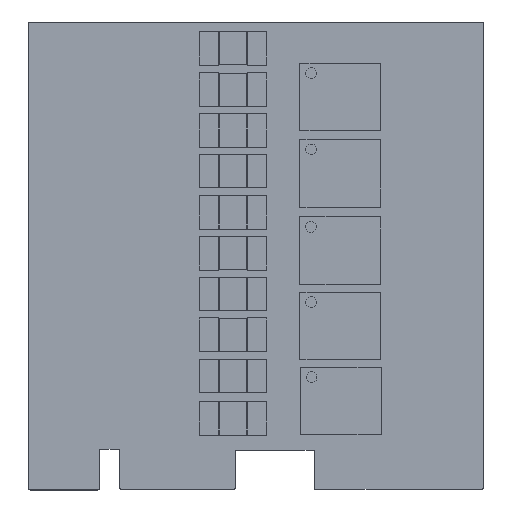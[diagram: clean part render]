
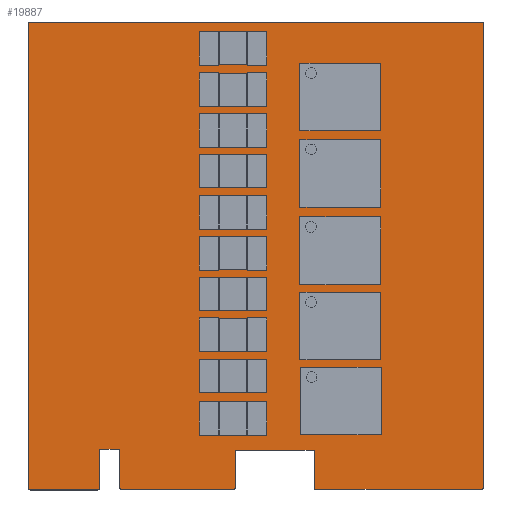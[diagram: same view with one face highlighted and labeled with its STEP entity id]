
A CAD part, top view. The second image highlights one B-rep face of the part: STEP entity #19887.
In plain terms, the highlighted planar face has unit normal (0, 0, 1).
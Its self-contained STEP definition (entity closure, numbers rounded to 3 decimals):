
#19162 = VERTEX_POINT('',#19163);
#19163 = CARTESIAN_POINT('',(0.049,0.,
    0.));
#19169 = EDGE_CURVE('',#19162,#19170,#19172,.T.);
#19170 = VERTEX_POINT('',#19171);
#19171 = CARTESIAN_POINT('',(5.131,0.,0.
    ));
#19172 = LINE('',#19173,#19174);
#19173 = CARTESIAN_POINT('',(0.049,0.,
    0.));
#19174 = VECTOR('',#19175,1.);
#19175 = DIRECTION('',(1.,0.,0.));
#19200 = EDGE_CURVE('',#19170,#19201,#19203,.T.);
#19201 = VERTEX_POINT('',#19202);
#19202 = CARTESIAN_POINT('',(5.256,0.152,0.));
#19203 = CIRCLE('',#19204,0.127);
#19204 = AXIS2_PLACEMENT_3D('',#19205,#19206,#19207);
#19205 = CARTESIAN_POINT('',(5.131,0.127,0.));
#19206 = DIRECTION('',(0.,0.,1.));
#19207 = DIRECTION('',(0.,-1.,0.));
#19233 = EDGE_CURVE('',#19201,#19234,#19236,.T.);
#19234 = VERTEX_POINT('',#19235);
#19235 = CARTESIAN_POINT('',(5.258,0.178,0.));
#19236 = CIRCLE('',#19237,0.127);
#19237 = AXIS2_PLACEMENT_3D('',#19238,#19239,#19240);
#19238 = CARTESIAN_POINT('',(5.131,0.178,0.));
#19239 = DIRECTION('',(0.,0.,1.));
#19240 = DIRECTION('',(0.98,-0.2,0.));
#19266 = EDGE_CURVE('',#19234,#19267,#19269,.T.);
#19267 = VERTEX_POINT('',#19268);
#19268 = CARTESIAN_POINT('',(5.258,3.054,0.));
#19269 = LINE('',#19270,#19271);
#19270 = CARTESIAN_POINT('',(5.258,0.178,0.));
#19271 = VECTOR('',#19272,1.);
#19272 = DIRECTION('',(0.,1.,0.));
#19297 = EDGE_CURVE('',#19267,#19298,#19300,.T.);
#19298 = VERTEX_POINT('',#19299);
#19299 = CARTESIAN_POINT('',(6.764,3.06,0.));
#19300 = LINE('',#19301,#19302);
#19301 = CARTESIAN_POINT('',(5.258,3.054,0.));
#19302 = VECTOR('',#19303,1.);
#19303 = DIRECTION('',(1.,0.004,0.));
#19328 = EDGE_CURVE('',#19298,#19329,#19331,.T.);
#19329 = VERTEX_POINT('',#19330);
#19330 = CARTESIAN_POINT('',(6.764,0.195,0.));
#19331 = LINE('',#19332,#19333);
#19332 = CARTESIAN_POINT('',(6.764,3.06,0.));
#19333 = VECTOR('',#19334,1.);
#19334 = DIRECTION('',(0.,-1.,0.));
#19359 = EDGE_CURVE('',#19329,#19360,#19362,.T.);
#19360 = VERTEX_POINT('',#19361);
#19361 = CARTESIAN_POINT('',(6.891,0.068,0.)
  );
#19362 = CIRCLE('',#19363,0.127);
#19363 = AXIS2_PLACEMENT_3D('',#19364,#19365,#19366);
#19364 = CARTESIAN_POINT('',(6.891,0.195,0.));
#19365 = DIRECTION('',(0.,0.,1.));
#19366 = DIRECTION('',(-1.,0.,0.));
#19392 = EDGE_CURVE('',#19360,#19393,#19395,.T.);
#19393 = VERTEX_POINT('',#19394);
#19394 = CARTESIAN_POINT('',(15.391,0.068,0.
    ));
#19395 = LINE('',#19396,#19397);
#19396 = CARTESIAN_POINT('',(6.891,0.068,0.)
  );
#19397 = VECTOR('',#19398,1.);
#19398 = DIRECTION('',(1.,0.,0.));
#19423 = EDGE_CURVE('',#19393,#19424,#19426,.T.);
#19424 = VERTEX_POINT('',#19425);
#19425 = CARTESIAN_POINT('',(15.519,0.198,0.));
#19426 = CIRCLE('',#19427,0.127);
#19427 = AXIS2_PLACEMENT_3D('',#19428,#19429,#19430);
#19428 = CARTESIAN_POINT('',(15.391,0.195,0.));
#19429 = DIRECTION('',(0.,0.,1.));
#19430 = DIRECTION('',(0.,-1.,0.));
#19456 = EDGE_CURVE('',#19424,#19457,#19459,.T.);
#19457 = VERTEX_POINT('',#19458);
#19458 = CARTESIAN_POINT('',(15.519,0.202,0.));
#19459 = CIRCLE('',#19460,0.131);
#19460 = AXIS2_PLACEMENT_3D('',#19461,#19462,#19463);
#19461 = CARTESIAN_POINT('',(15.388,0.202,0.));
#19462 = DIRECTION('',(0.,0.,1.));
#19463 = DIRECTION('',(1.,-0.025,0.));
#19489 = EDGE_CURVE('',#19457,#19490,#19492,.T.);
#19490 = VERTEX_POINT('',#19491);
#19491 = CARTESIAN_POINT('',(15.519,3.009,0.));
#19492 = LINE('',#19493,#19494);
#19493 = CARTESIAN_POINT('',(15.519,0.202,0.));
#19494 = VECTOR('',#19495,1.);
#19495 = DIRECTION('',(0.,1.,0.));
#19520 = EDGE_CURVE('',#19490,#19521,#19523,.T.);
#19521 = VERTEX_POINT('',#19522);
#19522 = CARTESIAN_POINT('',(21.422,3.009,0.));
#19523 = LINE('',#19524,#19525);
#19524 = CARTESIAN_POINT('',(15.519,3.009,0.));
#19525 = VECTOR('',#19526,1.);
#19526 = DIRECTION('',(1.,0.,0.));
#19551 = EDGE_CURVE('',#19521,#19552,#19554,.T.);
#19552 = VERTEX_POINT('',#19553);
#19553 = CARTESIAN_POINT('',(21.422,0.184,0.));
#19554 = LINE('',#19555,#19556);
#19555 = CARTESIAN_POINT('',(21.422,3.009,0.));
#19556 = VECTOR('',#19557,1.);
#19557 = DIRECTION('',(0.,-1.,0.));
#19582 = EDGE_CURVE('',#19552,#19583,#19585,.T.);
#19583 = VERTEX_POINT('',#19584);
#19584 = CARTESIAN_POINT('',(21.549,0.057,0.)
  );
#19585 = CIRCLE('',#19586,0.127);
#19586 = AXIS2_PLACEMENT_3D('',#19587,#19588,#19589);
#19587 = CARTESIAN_POINT('',(21.549,0.184,0.));
#19588 = DIRECTION('',(0.,0.,1.));
#19589 = DIRECTION('',(-1.,0.,0.));
#19615 = EDGE_CURVE('',#19583,#19616,#19618,.T.);
#19616 = VERTEX_POINT('',#19617);
#19617 = CARTESIAN_POINT('',(34.049,0.05,0.
    ));
#19618 = LINE('',#19619,#19620);
#19619 = CARTESIAN_POINT('',(21.549,0.057,0.)
  );
#19620 = VECTOR('',#19621,1.);
#19621 = DIRECTION('',(1.,-0.001,0.));
#19646 = EDGE_CURVE('',#19616,#19647,#19649,.T.);
#19647 = VERTEX_POINT('',#19648);
#19648 = CARTESIAN_POINT('',(34.177,0.178,0.));
#19649 = CIRCLE('',#19650,0.127);
#19650 = AXIS2_PLACEMENT_3D('',#19651,#19652,#19653);
#19651 = CARTESIAN_POINT('',(34.049,0.178,0.));
#19652 = DIRECTION('',(0.,0.,1.));
#19653 = DIRECTION('',(-0.001,-1.,0.));
#19679 = EDGE_CURVE('',#19647,#19680,#19682,.T.);
#19680 = VERTEX_POINT('',#19681);
#19681 = CARTESIAN_POINT('',(34.177,35.13,0.));
#19682 = LINE('',#19683,#19684);
#19683 = CARTESIAN_POINT('',(34.177,0.178,0.));
#19684 = VECTOR('',#19685,1.);
#19685 = DIRECTION('',(0.,1.,0.));
#19710 = EDGE_CURVE('',#19680,#19711,#19713,.T.);
#19711 = VERTEX_POINT('',#19712);
#19712 = CARTESIAN_POINT('',(34.049,35.257,0.));
#19713 = CIRCLE('',#19714,0.127);
#19714 = AXIS2_PLACEMENT_3D('',#19715,#19716,#19717);
#19715 = CARTESIAN_POINT('',(34.049,35.13,0.));
#19716 = DIRECTION('',(0.,0.,1.));
#19717 = DIRECTION('',(1.,0.,0.));
#19743 = EDGE_CURVE('',#19711,#19744,#19746,.T.);
#19744 = VERTEX_POINT('',#19745);
#19745 = CARTESIAN_POINT('',(0.049,35.257,0.)
  );
#19746 = LINE('',#19747,#19748);
#19747 = CARTESIAN_POINT('',(34.049,35.257,0.));
#19748 = VECTOR('',#19749,1.);
#19749 = DIRECTION('',(-1.,0.,0.));
#19774 = EDGE_CURVE('',#19744,#19775,#19777,.T.);
#19775 = VERTEX_POINT('',#19776);
#19776 = CARTESIAN_POINT('',(-0.078,35.13,0.
    ));
#19777 = CIRCLE('',#19778,0.127);
#19778 = AXIS2_PLACEMENT_3D('',#19779,#19780,#19781);
#19779 = CARTESIAN_POINT('',(0.049,35.13,0.
    ));
#19780 = DIRECTION('',(0.,0.,1.));
#19781 = DIRECTION('',(0.,1.,0.));
#19807 = EDGE_CURVE('',#19775,#19808,#19810,.T.);
#19808 = VERTEX_POINT('',#19809);
#19809 = CARTESIAN_POINT('',(-0.078,0.127,0.
    ));
#19810 = LINE('',#19811,#19812);
#19811 = CARTESIAN_POINT('',(-0.078,35.13,0.
    ));
#19812 = VECTOR('',#19813,1.);
#19813 = DIRECTION('',(0.,-1.,0.));
#19838 = EDGE_CURVE('',#19808,#19162,#19839,.T.);
#19839 = CIRCLE('',#19840,0.127);
#19840 = AXIS2_PLACEMENT_3D('',#19841,#19842,#19843);
#19841 = CARTESIAN_POINT('',(0.049,0.127,0.)
  );
#19842 = DIRECTION('',(0.,0.,1.));
#19843 = DIRECTION('',(-1.,0.,0.));
#19887 = ADVANCED_FACE('',(#19888),#19912,.F.);
#19888 = FACE_BOUND('',#19889,.T.);
#19889 = EDGE_LOOP('',(#19890,#19891,#19892,#19893,#19894,#19895,#19896,
    #19897,#19898,#19899,#19900,#19901,#19902,#19903,#19904,#19905,
    #19906,#19907,#19908,#19909,#19910,#19911));
#19890 = ORIENTED_EDGE('',*,*,#19169,.T.);
#19891 = ORIENTED_EDGE('',*,*,#19200,.T.);
#19892 = ORIENTED_EDGE('',*,*,#19233,.T.);
#19893 = ORIENTED_EDGE('',*,*,#19266,.T.);
#19894 = ORIENTED_EDGE('',*,*,#19297,.T.);
#19895 = ORIENTED_EDGE('',*,*,#19328,.T.);
#19896 = ORIENTED_EDGE('',*,*,#19359,.T.);
#19897 = ORIENTED_EDGE('',*,*,#19392,.T.);
#19898 = ORIENTED_EDGE('',*,*,#19423,.T.);
#19899 = ORIENTED_EDGE('',*,*,#19456,.T.);
#19900 = ORIENTED_EDGE('',*,*,#19489,.T.);
#19901 = ORIENTED_EDGE('',*,*,#19520,.T.);
#19902 = ORIENTED_EDGE('',*,*,#19551,.T.);
#19903 = ORIENTED_EDGE('',*,*,#19582,.T.);
#19904 = ORIENTED_EDGE('',*,*,#19615,.T.);
#19905 = ORIENTED_EDGE('',*,*,#19646,.T.);
#19906 = ORIENTED_EDGE('',*,*,#19679,.T.);
#19907 = ORIENTED_EDGE('',*,*,#19710,.T.);
#19908 = ORIENTED_EDGE('',*,*,#19743,.T.);
#19909 = ORIENTED_EDGE('',*,*,#19774,.T.);
#19910 = ORIENTED_EDGE('',*,*,#19807,.T.);
#19911 = ORIENTED_EDGE('',*,*,#19838,.T.);
#19912 = PLANE('',#19913);
#19913 = AXIS2_PLACEMENT_3D('',#19914,#19915,#19916);
#19914 = CARTESIAN_POINT('',(0.049,0.,
    0.));
#19915 = DIRECTION('',(0.,0.,-1.));
#19916 = DIRECTION('',(-1.,0.,0.));
